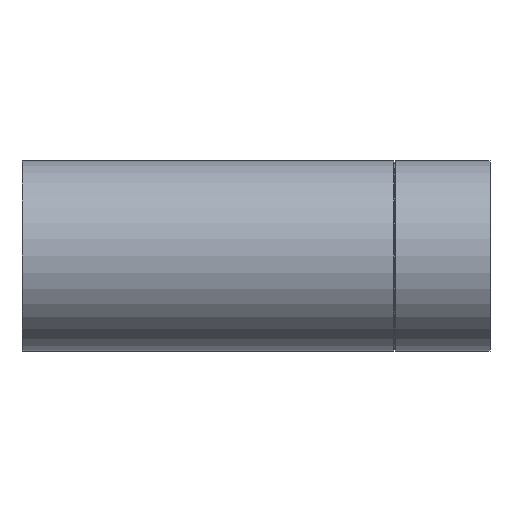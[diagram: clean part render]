
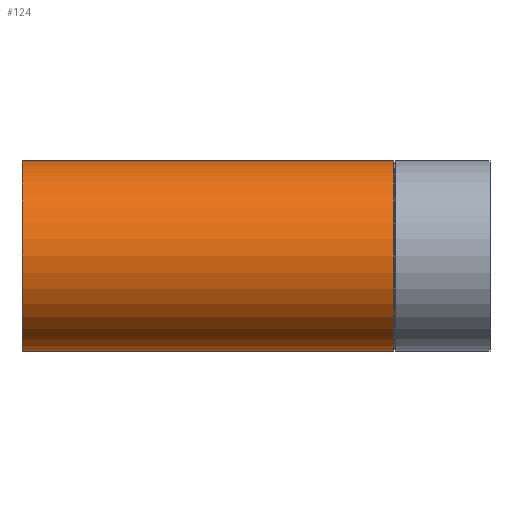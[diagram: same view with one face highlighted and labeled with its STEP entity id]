
A CAD part, left-side view. The second image highlights one B-rep face of the part: STEP entity #124.
In plain terms, the highlighted cylindrical face has radius 55 mm (diameter 110 mm), a full revolution.
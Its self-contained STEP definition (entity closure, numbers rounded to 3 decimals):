
#16=B_SPLINE_CURVE_WITH_KNOTS($,3,(#205,#206,#207,#208,#209,#210,#211,#212,
#213,#214,#215,#216,#217,#218,#219,#220,#221,#222,#223,#224,#225,#226,#227,
#228,#229,#230,#231,#232,#233,#234,#235,#236,#237,#238,#239,#240,#241,#242,
#243,#244,#245,#246,#247,#248,#249,#250,#251,#252,#253,#254,#255,#256,#257,
#258,#259,#260,#261,#262,#263,#264,#265,#266),.UNSPECIFIED.,.T.,.F.,(4,
2,2,2,2,2,2,2,2,2,2,2,2,2,2,2,2,2,2,2,2,2,2,2,2,2,2,2,2,2,4),(0.,1.298,
2.596,3.894,5.192,6.707,7.465,
8.223,8.98,9.738,11.254,12.551,
13.849,15.147,16.445,17.267,18.088,
18.909,19.731,20.436,21.141,21.846,
22.551,23.257,23.962,24.667,25.372,
26.194,27.015,27.836,28.658),
 .UNSPECIFIED.);
#18=CYLINDRICAL_SURFACE($,#140,55.);
#25=FACE_BOUND($,#49,.T.);
#26=FACE_BOUND($,#50,.T.);
#27=FACE_BOUND($,#51,.T.);
#49=EDGE_LOOP($,(#102));
#50=EDGE_LOOP($,(#103));
#51=EDGE_LOOP($,(#104));
#69=CIRCLE($,#139,55.);
#70=CIRCLE($,#141,55.);
#78=VERTEX_POINT($,#201);
#79=VERTEX_POINT($,#204);
#80=VERTEX_POINT($,#267);
#89=EDGE_CURVE($,#78,#78,#69,.T.);
#90=EDGE_CURVE($,#79,#79,#16,.T.);
#91=EDGE_CURVE($,#80,#80,#70,.T.);
#102=ORIENTED_EDGE($,*,*,#90,.T.);
#103=ORIENTED_EDGE($,*,*,#91,.T.);
#104=ORIENTED_EDGE($,*,*,#89,.T.);
#124=ADVANCED_FACE($,(#25,#26,#27),#18,.T.);
#139=AXIS2_PLACEMENT_3D($,#202,#164,#165);
#140=AXIS2_PLACEMENT_3D($,#203,#166,#167);
#141=AXIS2_PLACEMENT_3D($,#268,#168,#169);
#164=DIRECTION('center_axis',(0.,1.,0.));
#165=DIRECTION('ref_axis',(1.,0.,0.));
#166=DIRECTION('center_axis',(0.,1.,0.));
#167=DIRECTION('ref_axis',(1.,0.,0.));
#168=DIRECTION('center_axis',(0.,-1.,0.));
#169=DIRECTION('ref_axis',(1.,0.,0.));
#201=CARTESIAN_POINT('',(55.,55.635,0.));
#202=CARTESIAN_POINT('Origin',(0.,55.635,0.));
#203=CARTESIAN_POINT('Origin',(0.,0.,0.));
#204=CARTESIAN_POINT('',(40.234,130.234,37.5));
#205=CARTESIAN_POINT('Ctrl Pts',(40.234,130.234,37.5));
#206=CARTESIAN_POINT('Ctrl Pts',(40.234,134.56,37.5));
#207=CARTESIAN_POINT('Ctrl Pts',(40.583,139.003,37.132));
#208=CARTESIAN_POINT('Ctrl Pts',(41.744,147.928,35.822));
#209=CARTESIAN_POINT('Ctrl Pts',(42.553,152.41,34.879));
#210=CARTESIAN_POINT('Ctrl Pts',(44.412,161.203,32.478));
#211=CARTESIAN_POINT('Ctrl Pts',(45.462,165.51,31.021));
#212=CARTESIAN_POINT('Ctrl Pts',(47.613,173.714,27.606));
#213=CARTESIAN_POINT('Ctrl Pts',(48.715,177.611,25.65));
#214=CARTESIAN_POINT('Ctrl Pts',(50.983,185.33,20.832));
#215=CARTESIAN_POINT('Ctrl Pts',(52.295,189.566,17.518));
#216=CARTESIAN_POINT('Ctrl Pts',(53.802,194.325,11.596));
#217=CARTESIAN_POINT('Ctrl Pts',(54.228,195.647,9.466));
#218=CARTESIAN_POINT('Ctrl Pts',(54.826,197.5,4.931));
#219=CARTESIAN_POINT('Ctrl Pts',(55.,198.033,2.526));
#220=CARTESIAN_POINT('Ctrl Pts',(55.,198.033,-2.526));
#221=CARTESIAN_POINT('Ctrl Pts',(54.826,197.5,-4.931));
#222=CARTESIAN_POINT('Ctrl Pts',(54.228,195.647,-9.466));
#223=CARTESIAN_POINT('Ctrl Pts',(53.802,194.325,-11.596));
#224=CARTESIAN_POINT('Ctrl Pts',(52.295,189.566,-17.518));
#225=CARTESIAN_POINT('Ctrl Pts',(50.983,185.33,-20.832));
#226=CARTESIAN_POINT('Ctrl Pts',(48.715,177.611,-25.65));
#227=CARTESIAN_POINT('Ctrl Pts',(47.613,173.714,-27.606));
#228=CARTESIAN_POINT('Ctrl Pts',(45.462,165.51,-31.021));
#229=CARTESIAN_POINT('Ctrl Pts',(44.412,161.203,-32.478));
#230=CARTESIAN_POINT('Ctrl Pts',(42.553,152.41,-34.879));
#231=CARTESIAN_POINT('Ctrl Pts',(41.744,147.928,-35.822));
#232=CARTESIAN_POINT('Ctrl Pts',(40.583,139.003,-37.132));
#233=CARTESIAN_POINT('Ctrl Pts',(40.234,134.56,-37.5));
#234=CARTESIAN_POINT('Ctrl Pts',(40.234,127.496,-37.5));
#235=CARTESIAN_POINT('Ctrl Pts',(40.377,124.642,-37.349));
#236=CARTESIAN_POINT('Ctrl Pts',(41.069,119.003,-36.587));
#237=CARTESIAN_POINT('Ctrl Pts',(41.621,116.218,-35.973));
#238=CARTESIAN_POINT('Ctrl Pts',(43.106,110.996,-34.18));
#239=CARTESIAN_POINT('Ctrl Pts',(44.04,108.549,-32.994));
#240=CARTESIAN_POINT('Ctrl Pts',(46.085,104.173,-30.072));
#241=CARTESIAN_POINT('Ctrl Pts',(47.19,102.242,-28.335));
#242=CARTESIAN_POINT('Ctrl Pts',(49.145,99.187,-24.766));
#243=CARTESIAN_POINT('Ctrl Pts',(50.055,97.915,-22.899));
#244=CARTESIAN_POINT('Ctrl Pts',(51.724,95.728,-18.826));
#245=CARTESIAN_POINT('Ctrl Pts',(52.483,94.813,-16.621));
#246=CARTESIAN_POINT('Ctrl Pts',(53.724,93.364,-12.017));
#247=CARTESIAN_POINT('Ctrl Pts',(54.208,92.829,-9.614));
#248=CARTESIAN_POINT('Ctrl Pts',(54.846,92.131,-4.781));
#249=CARTESIAN_POINT('Ctrl Pts',(55.,91.967,-2.351));
#250=CARTESIAN_POINT('Ctrl Pts',(55.,91.967,2.351));
#251=CARTESIAN_POINT('Ctrl Pts',(54.846,92.131,4.781));
#252=CARTESIAN_POINT('Ctrl Pts',(54.208,92.829,9.614));
#253=CARTESIAN_POINT('Ctrl Pts',(53.724,93.364,12.017));
#254=CARTESIAN_POINT('Ctrl Pts',(52.483,94.813,16.621));
#255=CARTESIAN_POINT('Ctrl Pts',(51.724,95.728,18.826));
#256=CARTESIAN_POINT('Ctrl Pts',(50.055,97.915,22.899));
#257=CARTESIAN_POINT('Ctrl Pts',(49.145,99.187,24.766));
#258=CARTESIAN_POINT('Ctrl Pts',(47.19,102.242,28.335));
#259=CARTESIAN_POINT('Ctrl Pts',(46.085,104.173,30.072));
#260=CARTESIAN_POINT('Ctrl Pts',(44.04,108.549,32.994));
#261=CARTESIAN_POINT('Ctrl Pts',(43.106,110.996,34.18));
#262=CARTESIAN_POINT('Ctrl Pts',(41.621,116.218,35.973));
#263=CARTESIAN_POINT('Ctrl Pts',(41.069,119.003,36.587));
#264=CARTESIAN_POINT('Ctrl Pts',(40.377,124.642,37.349));
#265=CARTESIAN_POINT('Ctrl Pts',(40.234,127.496,37.5));
#266=CARTESIAN_POINT('Ctrl Pts',(40.234,130.234,37.5));
#267=CARTESIAN_POINT('',(-55.,270.,0.));
#268=CARTESIAN_POINT('Origin',(0.,270.,0.));
